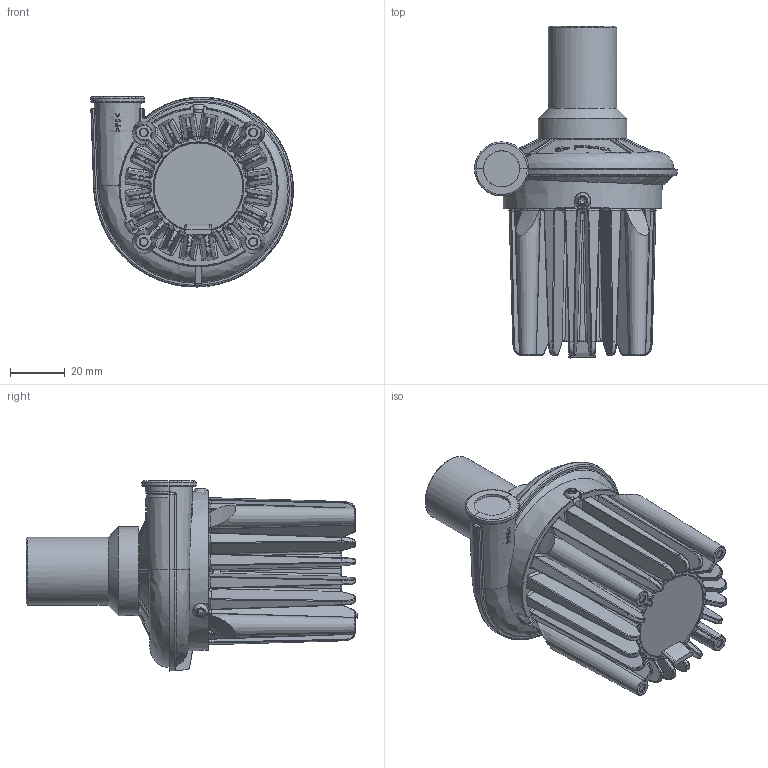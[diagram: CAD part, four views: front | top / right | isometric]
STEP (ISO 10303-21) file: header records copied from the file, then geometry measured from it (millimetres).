
FILE_DESCRIPTION(/* description */ (''),/* implementation_level */ '2;1');
FILE_NAME(/* name */ 'U71HL-024KM-51.stp',/* time_stamp */ '2024-06-24T09:17:23+02:00',/* author */ (''),/* organization */ (''),/* preprocessor_version */ 'ST-DEVELOPER v16.7',/* originating_system */ 'SIEMENS PLM Software NX 1946',/* authorisation */ '');
FILE_SCHEMA (('AUTOMOTIVE_DESIGN { 1 0 10303 214 3 1 1 1 }'));
Products named in the file (1): 021756_1- __
Bounding box: 74.2 x 121.4 x 69.52 mm (x, y, z)
Volume: 171152.4 mm3; surface area: 47158 mm2
Topology: 1 solids, 1 shells, 1576 faces, 3984 edges, 2425 vertices
Faces by surface type: plane 493, bspline 417, cylinder 329, cone 136, torus 135, sphere 44, revolution 17, extrusion 5
Full cylindrical faces by diameter (mm): 2.75 x4, 3 x3, 4 x1, 19 x1, 22.9 x1, 25 x1, 27.5 x1, 30.5 x1, 32.5 x1, 33 x1
Entity records: 61900 total; most frequent: CARTESIAN_POINT 29477, ORIENTED_EDGE 7814, DIRECTION 5017, EDGE_CURVE 3907, VERTEX_POINT 2408, AXIS2_PLACEMENT_3D 1884, B_SPLINE_CURVE_WITH_KNOTS 1827, EDGE_LOOP 1660
